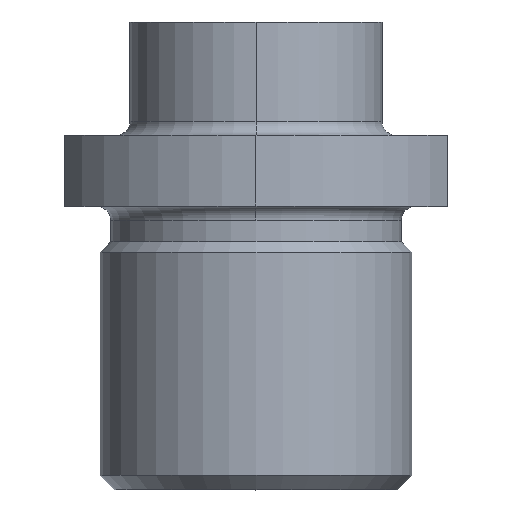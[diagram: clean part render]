
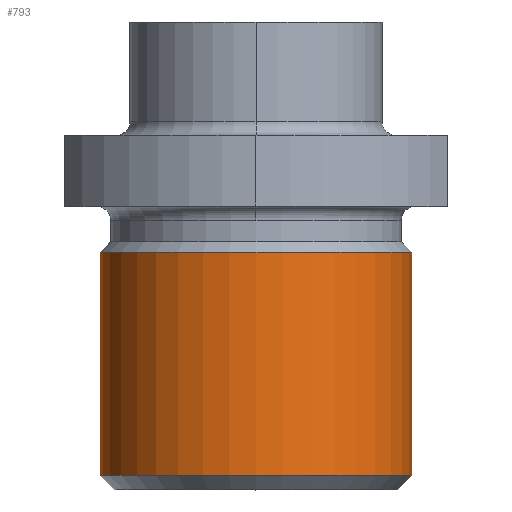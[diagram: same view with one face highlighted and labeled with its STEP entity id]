
A CAD part, top view. The second image highlights one B-rep face of the part: STEP entity #793.
In plain terms, the highlighted cylindrical face has radius 11 mm (diameter 22 mm), a partial arc.
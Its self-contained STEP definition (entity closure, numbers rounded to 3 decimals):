
#4 = CIRCLE ( 'NONE', #245, 11. ) ;
#16 = LINE ( 'NONE', #410, #257 ) ;
#58 = EDGE_CURVE ( 'NONE', #272, #182, #16, .T. ) ;
#141 = EDGE_CURVE ( 'NONE', #259, #400, #770, .T. ) ;
#160 = DIRECTION ( 'NONE',  ( 1., 0., 0. ) ) ;
#175 = CARTESIAN_POINT ( 'NONE',  ( 11., -6.25, 0. ) ) ;
#176 = ORIENTED_EDGE ( 'NONE', *, *, #58, .T. ) ;
#182 = VERTEX_POINT ( 'NONE', #432 ) ;
#207 = DIRECTION ( 'NONE',  ( 0., -1., 0. ) ) ;
#209 = ORIENTED_EDGE ( 'NONE', *, *, #141, .F. ) ;
#228 = FACE_OUTER_BOUND ( 'NONE', #327, .T. ) ;
#245 = AXIS2_PLACEMENT_3D ( 'NONE', #573, #777, #160 ) ;
#252 = DIRECTION ( 'NONE',  ( 1., 0., 0. ) ) ;
#257 = VECTOR ( 'NONE', #207, 1000. ) ;
#259 = VERTEX_POINT ( 'NONE', #175 ) ;
#272 = VERTEX_POINT ( 'NONE', #669 ) ;
#303 = AXIS2_PLACEMENT_3D ( 'NONE', #322, #728, #252 ) ;
#318 = CIRCLE ( 'NONE', #303, 11. ) ;
#322 = CARTESIAN_POINT ( 'NONE',  ( 0., -22., 0. ) ) ;
#327 = EDGE_LOOP ( 'NONE', ( #447, #176, #734, #209 ) ) ;
#334 = CARTESIAN_POINT ( 'NONE',  ( 11., -22., 0. ) ) ;
#376 = CARTESIAN_POINT ( 'NONE',  ( 11., -3., 0. ) ) ;
#400 = VERTEX_POINT ( 'NONE', #334 ) ;
#410 = CARTESIAN_POINT ( 'NONE',  ( -11., -3., 0. ) ) ;
#419 = EDGE_CURVE ( 'NONE', #400, #182, #318, .T. ) ;
#432 = CARTESIAN_POINT ( 'NONE',  ( -11., -22., 0. ) ) ;
#447 = ORIENTED_EDGE ( 'NONE', *, *, #833, .T. ) ;
#504 = DIRECTION ( 'NONE',  ( 0., -1., 0. ) ) ;
#526 = DIRECTION ( 'NONE',  ( 0., -1., 0. ) ) ;
#573 = CARTESIAN_POINT ( 'NONE',  ( 0., -6.25, 0. ) ) ;
#588 = VECTOR ( 'NONE', #504, 1000. ) ;
#644 = DIRECTION ( 'NONE',  ( 1., 0., 0. ) ) ;
#658 = CYLINDRICAL_SURFACE ( 'NONE', #862, 11. ) ;
#669 = CARTESIAN_POINT ( 'NONE',  ( -11., -6.25, 0. ) ) ;
#728 = DIRECTION ( 'NONE',  ( 0., -1., 0. ) ) ;
#734 = ORIENTED_EDGE ( 'NONE', *, *, #419, .F. ) ;
#770 = LINE ( 'NONE', #376, #588 ) ;
#777 = DIRECTION ( 'NONE',  ( 0., -1., 0. ) ) ;
#793 = ADVANCED_FACE ( 'NONE', ( #228 ), #658, .T. ) ;
#794 = CARTESIAN_POINT ( 'NONE',  ( 0., -3., 0. ) ) ;
#833 = EDGE_CURVE ( 'NONE', #259, #272, #4, .T. ) ;
#862 = AXIS2_PLACEMENT_3D ( 'NONE', #794, #526, #644 ) ;
